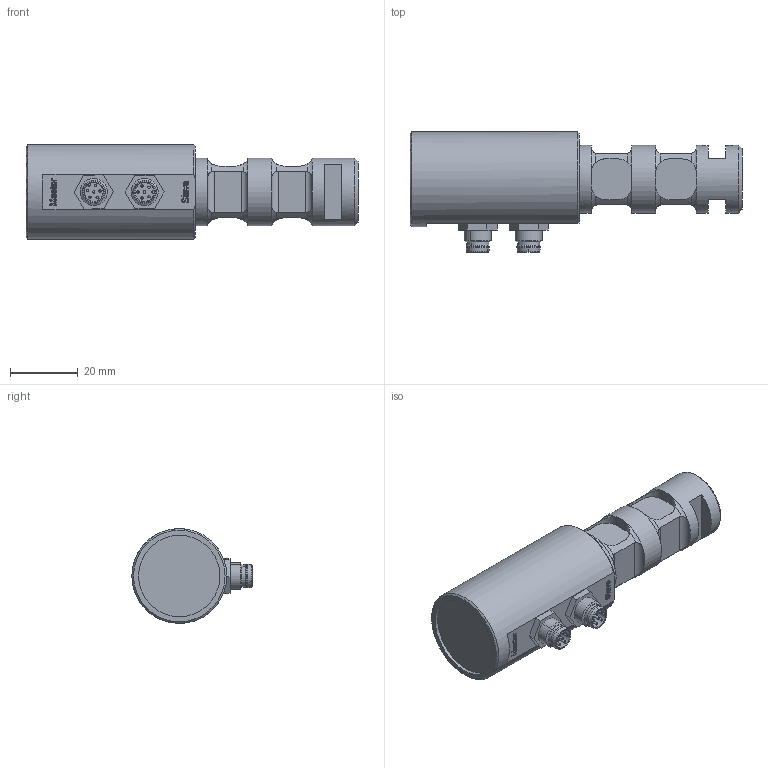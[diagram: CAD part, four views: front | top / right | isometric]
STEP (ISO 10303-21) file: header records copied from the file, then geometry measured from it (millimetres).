
FILE_DESCRIPTION(/* description */ ('Alibre Inc.'),/* implementation_level */ '2;1');
FILE_NAME(/* name */ 'export-FA1482E6-04DC-4CB6-8427-C35AB38ADEC8',/* time_stamp */ '2022-02-11T14:03:56+01:00',/* author */ (''),/* organization */ (''),/* preprocessor_version */ 'ST-DEVELOPER v17',/* originating_system */ 'Alibre',/* authorisation */ '');
FILE_SCHEMA (('CONFIG_CONTROL_DESIGN'));
Length unit declared in the file: millimetre
Bounding box: 98 x 35.5 x 28 mm (x, y, z)
Volume: 42580.6 mm3; surface area: 11192.4 mm2
Topology: 3 solids, 3 shells, 488 faces, 1256 edges, 827 vertices
Faces by surface type: plane 185, bspline 123, cylinder 111, torus 42, cone 27
Full cylindrical faces by diameter (mm): 0.7 x12, 7.5 x2, 20 x3, 24 x1, 28 x1
Entity records: 12934 total; most frequent: CARTESIAN_POINT 4213, ORIENTED_EDGE 2048, DIRECTION 1135, EDGE_CURVE 1024, VERTEX_POINT 683, VECTOR 489, LINE 489, EDGE_LOOP 449
